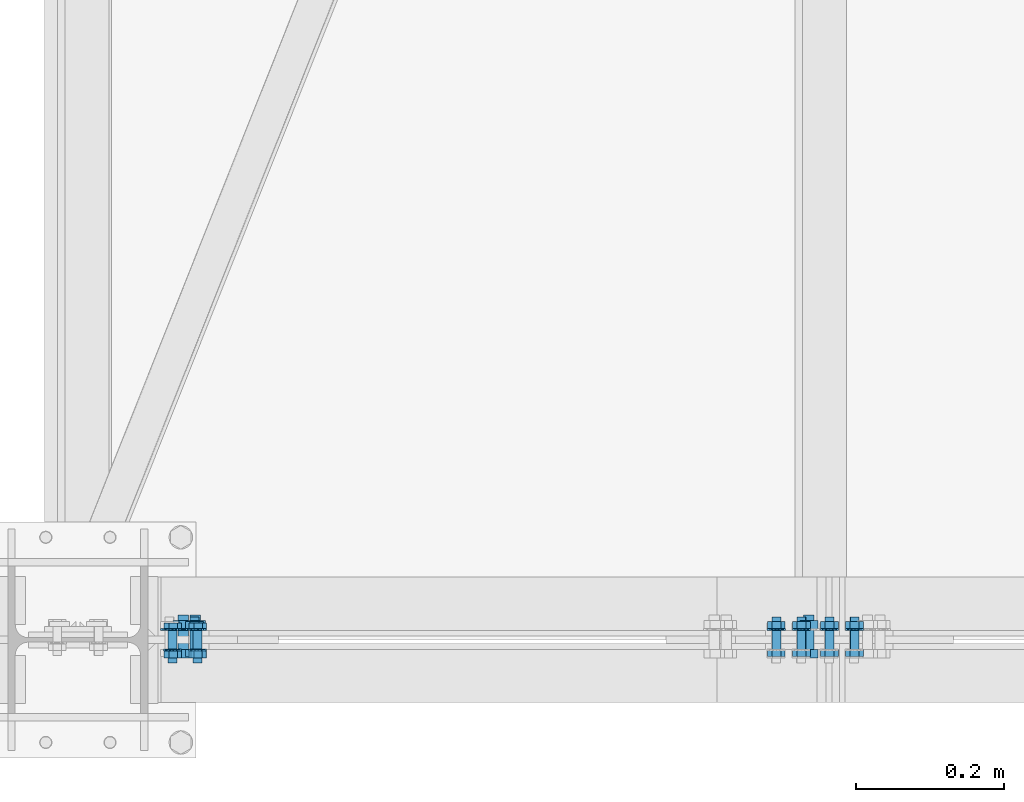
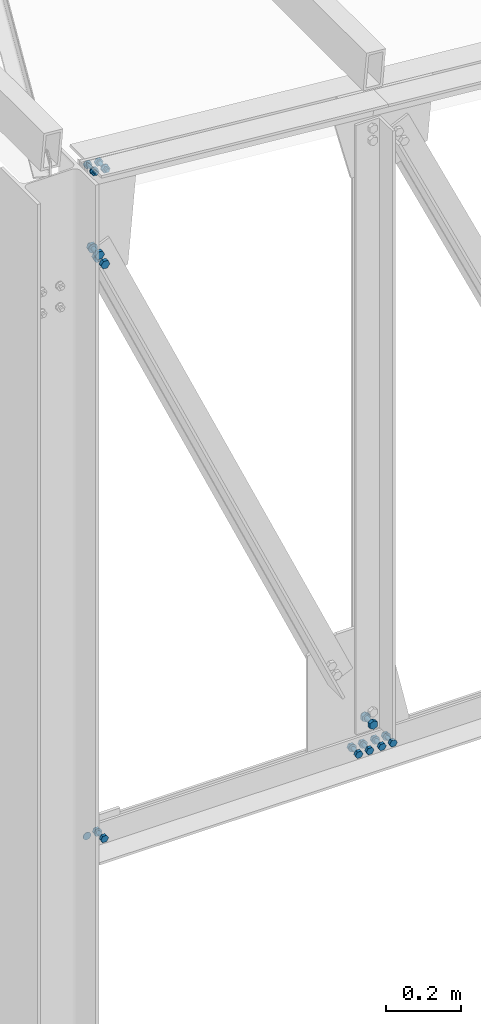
# One storey, part 58 of 251: 40 mechanical fasteners.
"""IFC4 building model written with IfcOpenShell, lengths in metres."""

from ifc_helpers import new_model, si_unit, frame, origin_with_axes, place, context, project, spatial, polyline, outline, extrude, type_object, element, save


model = new_model("IFC4")

# Units and contexts
model_context = context("Model", 3, precision=1e-05, world=origin_with_axes())
ifc_project = project(units=[si_unit("LENGTHUNIT", "METRE"), si_unit("AREAUNIT", "SQUARE_METRE"), si_unit("VOLUMEUNIT", "CUBIC_METRE"), si_unit("MASSUNIT", "GRAM", prefix="KILO"), si_unit("TIMEUNIT", "SECOND"), si_unit("PLANEANGLEUNIT", "RADIAN"), si_unit("SOLIDANGLEUNIT", "STERADIAN"), si_unit("THERMODYNAMICTEMPERATUREUNIT", "DEGREE_CELSIUS")], contexts=[model_context])

# Site, building, storey
placement_1 = place(None, origin_with_axes())
site = spatial("IfcSite", under=ifc_project, at=placement_1, Name="Italia", CompositionType="ELEMENT")
building = spatial("IfcBuilding", under=site, at=placement_1, Name="Deposito", CompositionType="ELEMENT")
storey = spatial("IfcBuildingStorey", under=building, at=placement_1, Name="Storey 0", CompositionType="ELEMENT", Elevation=0.0)

# Mechanical fasteners
mechanical_fastener_type_1 = type_object("IfcMechanicalFastenerType", Name="Reticolare 2", PredefinedType="BOLT")
placement_2 = place(placement_1, origin_with_axes())
mechanical_fastener_1_placement = place(placement_2, origin_with_axes())
element("IfcMechanicalFastener", 1, at=mechanical_fastener_1_placement, inside=storey, type_object=mechanical_fastener_type_1, Name="Reticolare 2", NominalDiameter=0.024, context=model_context, shape_type="SweptSolid", body=[
    extrude(outline(polyline([(0.0, 0.0), (-0.000409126, -0.00310564), (-0.00160789, -0.00600004), (-0.00351477, -0.00848532), (-0.00600004, -0.0103922), (-0.00889444, -0.011591), (-0.0120001, -0.0120001), (-0.0151057, -0.011591), (-0.0180001, -0.0103922), (-0.0204854, -0.00848532), (-0.0223923, -0.00600004), (-0.023591, -0.00310564), (-0.0240002, 0.0), (-0.023591, 0.00310564), (-0.0223923, 0.00600004), (-0.0204854, 0.00848532), (-0.0180001, 0.0103922), (-0.0151057, 0.011591), (-0.0120001, 0.0120001), (-0.00889444, 0.011591), (-0.00600004, 0.0103922), (-0.00351477, 0.00848532), (-0.00160789, 0.00600004), (-0.000409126, 0.00310564), (0.0, 0.0)])), frame((6.18605, 0.015, 5.007), z_axis=(0.0, -1.0, 0.0), x_axis=(1.0, 0.0, 0.0)), (0.0, 0.0, 1.0), 0.002),
])
mechanical_fastener_type_2 = type_object("IfcMechanicalFastenerType", Name="Reticolare 2", PredefinedType="BOLT")
mechanical_fastener_2_placement = place(placement_2, origin_with_axes())
element("IfcMechanicalFastener", 2, at=mechanical_fastener_2_placement, inside=storey, type_object=mechanical_fastener_type_2, Name="Reticolare 2", NominalDiameter=0.0119999, context=model_context, shape_type="SweptSolid", body=[
    extrude(outline(polyline([(0.0, 0.0), (-0.0120001, 0.0), (-0.0180001, 0.0103922), (-0.0120001, 0.0207844), (0.0, 0.0207844), (0.00600004, 0.0103922), (0.0, 0.0)])), frame((6.21405, -0.013, 4.99661), z_axis=(0.0, -1.0, 0.0), x_axis=(1.0, 0.0, 0.0)), (0.0, 0.0, 1.0), 0.0096),
])
mechanical_fastener_type_3 = type_object("IfcMechanicalFastenerType", Name="Reticolare 2", PredefinedType="BOLT")
mechanical_fastener_3_placement = place(placement_2, origin_with_axes())
element("IfcMechanicalFastener", 3, at=mechanical_fastener_3_placement, inside=storey, type_object=mechanical_fastener_type_3, Name="Reticolare 2", NominalDiameter=0.012, context=model_context, shape_type="SweptSolid", body=[
    extrude(outline(polyline([(0.0, 0.0), (-0.000204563, -0.00155306), (-0.000803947, -0.00299978), (-0.00175762, -0.00424242), (-0.00300026, -0.00519609), (-0.00444698, -0.00579548), (-0.00600004, -0.00600004), (-0.0075531, -0.00579548), (-0.00899982, -0.00519609), (-0.0102425, -0.00424242), (-0.0111961, -0.00299978), (-0.0117955, -0.00155306), (-0.0120001, 0.0), (-0.0117955, 0.00155306), (-0.0111961, 0.00299978), (-0.0102425, 0.00424242), (-0.00899982, 0.00519609), (-0.0075531, 0.00579548), (-0.00600004, 0.00600004), (-0.00444698, 0.00579548), (-0.00300026, 0.00519609), (-0.00175762, 0.00424242), (-0.000803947, 0.00299978), (-0.000204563, 0.00155306), (0.0, 0.0)])), frame((6.21405, 0.031, 5.007), z_axis=(0.0, -1.0, 0.0), x_axis=(1.0, 0.0, 0.0)), (0.0, 0.0, 1.0), 0.044),
])
mechanical_fastener_type_4 = type_object("IfcMechanicalFastenerType", Name="Reticolare 2", PredefinedType="BOLT")
mechanical_fastener_4_placement = place(placement_2, origin_with_axes())
element("IfcMechanicalFastener", 4, at=mechanical_fastener_4_placement, inside=storey, type_object=mechanical_fastener_type_4, Name="Reticolare 2", NominalDiameter=0.0119999, context=model_context, shape_type="SweptSolid", body=[
    extrude(outline(polyline([(0.0, 0.0), (-0.0120001, 0.0), (-0.0180001, 0.0103922), (-0.0120001, 0.0207844), (0.0, 0.0207844), (0.00600004, 0.0103922), (0.0, 0.0)])), frame((6.21405, 0.0246, 4.99661), z_axis=(0.0, -1.0, 0.0), x_axis=(1.0, 0.0, 0.0)), (0.0, 0.0, 1.0), 0.0096),
])
mechanical_fastener_type_5 = type_object("IfcMechanicalFastenerType", Name="Reticolare 2", PredefinedType="BOLT")
mechanical_fastener_5_placement = place(placement_2, origin_with_axes())
element("IfcMechanicalFastener", 5, at=mechanical_fastener_5_placement, inside=storey, type_object=mechanical_fastener_type_5, Name="Reticolare 2", NominalDiameter=0.024, context=model_context, shape_type="SweptSolid", body=[
    extrude(outline(polyline([(0.0, 0.0), (-0.000409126, -0.00310564), (-0.00160789, -0.00600004), (-0.00351477, -0.00848532), (-0.00600004, -0.0103922), (-0.00889444, -0.011591), (-0.0120001, -0.0120001), (-0.0151057, -0.011591), (-0.0180001, -0.0103922), (-0.0204854, -0.00848532), (-0.0223923, -0.00600004), (-0.023591, -0.00310564), (-0.0240002, 0.0), (-0.023591, 0.00310564), (-0.0223923, 0.00600004), (-0.0204854, 0.00848532), (-0.0180001, 0.0103922), (-0.0151057, 0.011591), (-0.0120001, 0.0120001), (-0.00889444, 0.011591), (-0.00600004, 0.0103922), (-0.00351477, 0.00848532), (-0.00160789, 0.00600004), (-0.000409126, 0.00310564), (0.0, 0.0)])), frame((6.22005, 0.015, 5.007), z_axis=(0.0, -1.0, 0.0), x_axis=(1.0, 0.0, 0.0)), (0.0, 0.0, 1.0), 0.002),
])
mechanical_fastener_type_6 = type_object("IfcMechanicalFastenerType", Name="Reticolare 2", PredefinedType="BOLT")
mechanical_fastener_6_placement = place(placement_2, origin_with_axes())
element("IfcMechanicalFastener", 6, at=mechanical_fastener_6_placement, inside=storey, type_object=mechanical_fastener_type_6, Name="Reticolare 2", NominalDiameter=0.0119999, context=model_context, shape_type="SweptSolid", body=[
    extrude(outline(polyline([(0.0, 0.0), (-0.0120001, 0.0), (-0.0180001, 0.0103922), (-0.0120001, 0.0207844), (0.0, 0.0207844), (0.00600004, 0.0103922), (0.0, 0.0)])), frame((7.03647, -0.013, 4.99661), z_axis=(0.0, -1.0, 0.0), x_axis=(1.0, 0.0, 0.0)), (0.0, 0.0, 1.0), 0.0096),
])
mechanical_fastener_type_7 = type_object("IfcMechanicalFastenerType", Name="Reticolare 2", PredefinedType="BOLT")
mechanical_fastener_7_placement = place(placement_2, origin_with_axes())
element("IfcMechanicalFastener", 7, at=mechanical_fastener_7_placement, inside=storey, type_object=mechanical_fastener_type_7, Name="Reticolare 2", NominalDiameter=0.012, context=model_context, shape_type="SweptSolid", body=[
    extrude(outline(polyline([(0.0, 0.0), (-0.000204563, -0.00155306), (-0.000803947, -0.00299978), (-0.00175762, -0.00424242), (-0.00300026, -0.00519609), (-0.00444698, -0.00579548), (-0.00600004, -0.00600004), (-0.0075531, -0.00579548), (-0.00899982, -0.00519609), (-0.0102425, -0.00424242), (-0.0111961, -0.00299978), (-0.0117955, -0.00155306), (-0.0120001, 0.0), (-0.0117955, 0.00155306), (-0.0111961, 0.00299978), (-0.0102425, 0.00424242), (-0.00899982, 0.00519609), (-0.0075531, 0.00579548), (-0.00600004, 0.00600004), (-0.00444698, 0.00579548), (-0.00300026, 0.00519609), (-0.00175762, 0.00424242), (-0.000803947, 0.00299978), (-0.000204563, 0.00155306), (0.0, 0.0)])), frame((7.03647, 0.031, 5.007), z_axis=(0.0, -1.0, 0.0), x_axis=(1.0, 0.0, 0.0)), (0.0, 0.0, 1.0), 0.044),
])
mechanical_fastener_type_8 = type_object("IfcMechanicalFastenerType", Name="Reticolare 2", PredefinedType="BOLT")
mechanical_fastener_8_placement = place(placement_2, origin_with_axes())
element("IfcMechanicalFastener", 8, at=mechanical_fastener_8_placement, inside=storey, type_object=mechanical_fastener_type_8, Name="Reticolare 2", NominalDiameter=0.0119999, context=model_context, shape_type="SweptSolid", body=[
    extrude(outline(polyline([(0.0, 0.0), (-0.0120001, 0.0), (-0.0180001, 0.0103922), (-0.0120001, 0.0207844), (0.0, 0.0207844), (0.00600004, 0.0103922), (0.0, 0.0)])), frame((7.03647, 0.0246, 4.99661), z_axis=(0.0, -1.0, 0.0), x_axis=(1.0, 0.0, 0.0)), (0.0, 0.0, 1.0), 0.0096),
])
mechanical_fastener_type_9 = type_object("IfcMechanicalFastenerType", Name="Reticolare 2", PredefinedType="BOLT")
mechanical_fastener_9_placement = place(placement_2, origin_with_axes())
element("IfcMechanicalFastener", 9, at=mechanical_fastener_9_placement, inside=storey, type_object=mechanical_fastener_type_9, Name="Reticolare 2", NominalDiameter=0.024, context=model_context, shape_type="SweptSolid", body=[
    extrude(outline(polyline([(0.0, 0.0), (-0.000409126, -0.00310564), (-0.00160789, -0.00600004), (-0.00351477, -0.00848532), (-0.00600004, -0.0103922), (-0.00889444, -0.011591), (-0.0120001, -0.0120001), (-0.0151057, -0.011591), (-0.0180001, -0.0103922), (-0.0204854, -0.00848532), (-0.0223923, -0.00600004), (-0.023591, -0.00310564), (-0.0240002, 0.0), (-0.023591, 0.00310564), (-0.0223923, 0.00600004), (-0.0204854, 0.00848532), (-0.0180001, 0.0103922), (-0.0151057, 0.011591), (-0.0120001, 0.0120001), (-0.00889444, 0.011591), (-0.00600004, 0.0103922), (-0.00351477, 0.00848532), (-0.00160789, 0.00600004), (-0.000409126, 0.00310564), (0.0, 0.0)])), frame((7.04247, 0.015, 5.007), z_axis=(0.0, -1.0, 0.0), x_axis=(1.0, 0.0, 0.0)), (0.0, 0.0, 1.0), 0.002),
])
mechanical_fastener_type_10 = type_object("IfcMechanicalFastenerType", Name="Reticolare 2", PredefinedType="BOLT")
mechanical_fastener_10_placement = place(placement_2, origin_with_axes())
element("IfcMechanicalFastener", 10, at=mechanical_fastener_10_placement, inside=storey, type_object=mechanical_fastener_type_10, Name="Reticolare 2", NominalDiameter=0.0119999, context=model_context, shape_type="SweptSolid", body=[
    extrude(outline(polyline([(0.0, 0.0), (-0.0120001, 0.0), (-0.0180001, 0.0103922), (-0.0120001, 0.0207844), (0.0, 0.0207844), (0.00600004, 0.0103922), (0.0, 0.0)])), frame((7.00247, -0.013, 4.99661), z_axis=(0.0, -1.0, 0.0), x_axis=(1.0, 0.0, 0.0)), (0.0, 0.0, 1.0), 0.0096),
])
mechanical_fastener_type_11 = type_object("IfcMechanicalFastenerType", Name="Reticolare 2", PredefinedType="BOLT")
mechanical_fastener_11_placement = place(placement_2, origin_with_axes())
element("IfcMechanicalFastener", 11, at=mechanical_fastener_11_placement, inside=storey, type_object=mechanical_fastener_type_11, Name="Reticolare 2", NominalDiameter=0.012, context=model_context, shape_type="SweptSolid", body=[
    extrude(outline(polyline([(0.0, 0.0), (-0.000204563, -0.00155306), (-0.000803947, -0.00299978), (-0.00175762, -0.00424242), (-0.00300026, -0.00519609), (-0.00444698, -0.00579548), (-0.00600004, -0.00600004), (-0.0075531, -0.00579548), (-0.00899982, -0.00519609), (-0.0102425, -0.00424242), (-0.0111961, -0.00299978), (-0.0117955, -0.00155306), (-0.0120001, 0.0), (-0.0117955, 0.00155306), (-0.0111961, 0.00299978), (-0.0102425, 0.00424242), (-0.00899982, 0.00519609), (-0.0075531, 0.00579548), (-0.00600004, 0.00600004), (-0.00444698, 0.00579548), (-0.00300026, 0.00519609), (-0.00175762, 0.00424242), (-0.000803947, 0.00299978), (-0.000204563, 0.00155306), (0.0, 0.0)])), frame((7.00247, 0.031, 5.007), z_axis=(0.0, -1.0, 0.0), x_axis=(1.0, 0.0, 0.0)), (0.0, 0.0, 1.0), 0.044),
])
mechanical_fastener_type_12 = type_object("IfcMechanicalFastenerType", Name="Reticolare 2", PredefinedType="BOLT")
mechanical_fastener_12_placement = place(placement_2, origin_with_axes())
element("IfcMechanicalFastener", 12, at=mechanical_fastener_12_placement, inside=storey, type_object=mechanical_fastener_type_12, Name="Reticolare 2", NominalDiameter=0.0119999, context=model_context, shape_type="SweptSolid", body=[
    extrude(outline(polyline([(0.0, 0.0), (-0.0120001, 0.0), (-0.0180001, 0.0103922), (-0.0120001, 0.0207844), (0.0, 0.0207844), (0.00600004, 0.0103922), (0.0, 0.0)])), frame((7.00247, 0.0246, 4.99661), z_axis=(0.0, -1.0, 0.0), x_axis=(1.0, 0.0, 0.0)), (0.0, 0.0, 1.0), 0.0096),
])
mechanical_fastener_type_13 = type_object("IfcMechanicalFastenerType", Name="Reticolare 2", PredefinedType="BOLT")
mechanical_fastener_13_placement = place(placement_2, origin_with_axes())
element("IfcMechanicalFastener", 13, at=mechanical_fastener_13_placement, inside=storey, type_object=mechanical_fastener_type_13, Name="Reticolare 2", NominalDiameter=0.024, context=model_context, shape_type="SweptSolid", body=[
    extrude(outline(polyline([(0.0, 0.0), (-0.000409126, -0.00310564), (-0.00160789, -0.00600004), (-0.00351477, -0.00848532), (-0.00600004, -0.0103922), (-0.00889444, -0.011591), (-0.0120001, -0.0120001), (-0.0151057, -0.011591), (-0.0180001, -0.0103922), (-0.0204854, -0.00848532), (-0.0223923, -0.00600004), (-0.023591, -0.00310564), (-0.0240002, 0.0), (-0.023591, 0.00310564), (-0.0223923, 0.00600004), (-0.0204854, 0.00848532), (-0.0180001, 0.0103922), (-0.0151057, 0.011591), (-0.0120001, 0.0120001), (-0.00889444, 0.011591), (-0.00600004, 0.0103922), (-0.00351477, 0.00848532), (-0.00160789, 0.00600004), (-0.000409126, 0.00310564), (0.0, 0.0)])), frame((7.00847, 0.015, 5.007), z_axis=(0.0, -1.0, 0.0), x_axis=(1.0, 0.0, 0.0)), (0.0, 0.0, 1.0), 0.002),
])
mechanical_fastener_type_14 = type_object("IfcMechanicalFastenerType", Name="Reticolare 2", PredefinedType="BOLT")
mechanical_fastener_14_placement = place(placement_2, origin_with_axes())
element("IfcMechanicalFastener", 14, at=mechanical_fastener_14_placement, inside=storey, type_object=mechanical_fastener_type_14, Name="Reticolare 2", NominalDiameter=0.0119999, context=model_context, shape_type="SweptSolid", body=[
    extrude(outline(polyline([(0.0, 0.0), (-0.0120001, 0.0), (-0.0180001, 0.0103922), (-0.0120001, 0.0207844), (0.0, 0.0207844), (0.00600004, 0.0103922), (0.0, 0.0)])), frame((7.07447, -0.013, 4.99661), z_axis=(0.0, -1.0, 0.0), x_axis=(1.0, 0.0, 0.0)), (0.0, 0.0, 1.0), 0.0096),
])
mechanical_fastener_type_15 = type_object("IfcMechanicalFastenerType", Name="Reticolare 2", PredefinedType="BOLT")
mechanical_fastener_15_placement = place(placement_2, origin_with_axes())
element("IfcMechanicalFastener", 15, at=mechanical_fastener_15_placement, inside=storey, type_object=mechanical_fastener_type_15, Name="Reticolare 2", NominalDiameter=0.012, context=model_context, shape_type="SweptSolid", body=[
    extrude(outline(polyline([(0.0, 0.0), (-0.000204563, -0.00155306), (-0.000803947, -0.00299978), (-0.00175762, -0.00424242), (-0.00300026, -0.00519609), (-0.00444698, -0.00579548), (-0.00600004, -0.00600004), (-0.0075531, -0.00579548), (-0.00899982, -0.00519609), (-0.0102425, -0.00424242), (-0.0111961, -0.00299978), (-0.0117955, -0.00155306), (-0.0120001, 0.0), (-0.0117955, 0.00155306), (-0.0111961, 0.00299978), (-0.0102425, 0.00424242), (-0.00899982, 0.00519609), (-0.0075531, 0.00579548), (-0.00600004, 0.00600004), (-0.00444698, 0.00579548), (-0.00300026, 0.00519609), (-0.00175762, 0.00424242), (-0.000803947, 0.00299978), (-0.000204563, 0.00155306), (0.0, 0.0)])), frame((7.07447, 0.031, 5.007), z_axis=(0.0, -1.0, 0.0), x_axis=(1.0, 0.0, 0.0)), (0.0, 0.0, 1.0), 0.044),
])
mechanical_fastener_type_16 = type_object("IfcMechanicalFastenerType", Name="Reticolare 2", PredefinedType="BOLT")
mechanical_fastener_16_placement = place(placement_2, origin_with_axes())
element("IfcMechanicalFastener", 16, at=mechanical_fastener_16_placement, inside=storey, type_object=mechanical_fastener_type_16, Name="Reticolare 2", NominalDiameter=0.0119999, context=model_context, shape_type="SweptSolid", body=[
    extrude(outline(polyline([(0.0, 0.0), (-0.0120001, 0.0), (-0.0180001, 0.0103922), (-0.0120001, 0.0207844), (0.0, 0.0207844), (0.00600004, 0.0103922), (0.0, 0.0)])), frame((7.07447, 0.0246, 4.99661), z_axis=(0.0, -1.0, 0.0), x_axis=(1.0, 0.0, 0.0)), (0.0, 0.0, 1.0), 0.0096),
])
mechanical_fastener_type_17 = type_object("IfcMechanicalFastenerType", Name="Reticolare 2", PredefinedType="BOLT")
mechanical_fastener_17_placement = place(placement_2, origin_with_axes())
element("IfcMechanicalFastener", 17, at=mechanical_fastener_17_placement, inside=storey, type_object=mechanical_fastener_type_17, Name="Reticolare 2", NominalDiameter=0.024, context=model_context, shape_type="SweptSolid", body=[
    extrude(outline(polyline([(0.0, 0.0), (-0.000409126, -0.00310564), (-0.00160789, -0.00600004), (-0.00351477, -0.00848532), (-0.00600004, -0.0103922), (-0.00889444, -0.011591), (-0.0120001, -0.0120001), (-0.0151057, -0.011591), (-0.0180001, -0.0103922), (-0.0204854, -0.00848532), (-0.0223923, -0.00600004), (-0.023591, -0.00310564), (-0.0240002, 0.0), (-0.023591, 0.00310564), (-0.0223923, 0.00600004), (-0.0204854, 0.00848532), (-0.0180001, 0.0103922), (-0.0151057, 0.011591), (-0.0120001, 0.0120001), (-0.00889444, 0.011591), (-0.00600004, 0.0103922), (-0.00351477, 0.00848532), (-0.00160789, 0.00600004), (-0.000409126, 0.00310564), (0.0, 0.0)])), frame((7.08047, 0.015, 5.007), z_axis=(0.0, -1.0, 0.0), x_axis=(1.0, 0.0, 0.0)), (0.0, 0.0, 1.0), 0.002),
])
mechanical_fastener_type_18 = type_object("IfcMechanicalFastenerType", Name="Reticolare 2", PredefinedType="BOLT")
mechanical_fastener_18_placement = place(placement_2, origin_with_axes())
element("IfcMechanicalFastener", 18, at=mechanical_fastener_18_placement, inside=storey, type_object=mechanical_fastener_type_18, Name="Reticolare 2", NominalDiameter=0.0119999, context=model_context, shape_type="SweptSolid", body=[
    extrude(outline(polyline([(0.0, 0.0), (-0.0120001, 0.0), (-0.0180001, 0.0103922), (-0.0120001, 0.0207844), (0.0, 0.0207844), (0.00600004, 0.0103922), (0.0, 0.0)])), frame((7.10847, -0.013, 4.99661), z_axis=(0.0, -1.0, 0.0), x_axis=(1.0, 0.0, 0.0)), (0.0, 0.0, 1.0), 0.0096),
])
mechanical_fastener_type_19 = type_object("IfcMechanicalFastenerType", Name="Reticolare 2", PredefinedType="BOLT")
mechanical_fastener_19_placement = place(placement_2, origin_with_axes())
element("IfcMechanicalFastener", 19, at=mechanical_fastener_19_placement, inside=storey, type_object=mechanical_fastener_type_19, Name="Reticolare 2", NominalDiameter=0.012, context=model_context, shape_type="SweptSolid", body=[
    extrude(outline(polyline([(0.0, 0.0), (-0.000204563, -0.00155306), (-0.000803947, -0.00299978), (-0.00175762, -0.00424242), (-0.00300026, -0.00519609), (-0.00444698, -0.00579548), (-0.00600004, -0.00600004), (-0.0075531, -0.00579548), (-0.00899982, -0.00519609), (-0.0102425, -0.00424242), (-0.0111961, -0.00299978), (-0.0117955, -0.00155306), (-0.0120001, 0.0), (-0.0117955, 0.00155306), (-0.0111961, 0.00299978), (-0.0102425, 0.00424242), (-0.00899982, 0.00519609), (-0.0075531, 0.00579548), (-0.00600004, 0.00600004), (-0.00444698, 0.00579548), (-0.00300026, 0.00519609), (-0.00175762, 0.00424242), (-0.000803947, 0.00299978), (-0.000204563, 0.00155306), (0.0, 0.0)])), frame((7.10847, 0.031, 5.007), z_axis=(0.0, -1.0, 0.0), x_axis=(1.0, 0.0, 0.0)), (0.0, 0.0, 1.0), 0.044),
])
mechanical_fastener_type_20 = type_object("IfcMechanicalFastenerType", Name="Reticolare 2", PredefinedType="BOLT")
mechanical_fastener_20_placement = place(placement_2, origin_with_axes())
element("IfcMechanicalFastener", 20, at=mechanical_fastener_20_placement, inside=storey, type_object=mechanical_fastener_type_20, Name="Reticolare 2", NominalDiameter=0.0119999, context=model_context, shape_type="SweptSolid", body=[
    extrude(outline(polyline([(0.0, 0.0), (-0.0120001, 0.0), (-0.0180001, 0.0103922), (-0.0120001, 0.0207844), (0.0, 0.0207844), (0.00600004, 0.0103922), (0.0, 0.0)])), frame((7.10847, 0.0246, 4.99661), z_axis=(0.0, -1.0, 0.0), x_axis=(1.0, 0.0, 0.0)), (0.0, 0.0, 1.0), 0.0096),
])
mechanical_fastener_type_21 = type_object("IfcMechanicalFastenerType", Name="Reticolare 2", PredefinedType="BOLT")
mechanical_fastener_21_placement = place(placement_2, origin_with_axes())
element("IfcMechanicalFastener", 21, at=mechanical_fastener_21_placement, inside=storey, type_object=mechanical_fastener_type_21, Name="Reticolare 2", NominalDiameter=0.024, context=model_context, shape_type="SweptSolid", body=[
    extrude(outline(polyline([(0.0, 0.0), (-0.000409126, -0.00310564), (-0.00160789, -0.00600004), (-0.00351477, -0.00848532), (-0.00600004, -0.0103922), (-0.00889444, -0.011591), (-0.0120001, -0.0120001), (-0.0151057, -0.011591), (-0.0180001, -0.0103922), (-0.0204854, -0.00848532), (-0.0223923, -0.00600004), (-0.023591, -0.00310564), (-0.0240002, 0.0), (-0.023591, 0.00310564), (-0.0223923, 0.00600004), (-0.0204854, 0.00848532), (-0.0180001, 0.0103922), (-0.0151057, 0.011591), (-0.0120001, 0.0120001), (-0.00889444, 0.011591), (-0.00600004, 0.0103922), (-0.00351477, 0.00848532), (-0.00160789, 0.00600004), (-0.000409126, 0.00310564), (0.0, 0.0)])), frame((7.11447, 0.015, 5.007), z_axis=(0.0, -1.0, 0.0), x_axis=(1.0, 0.0, 0.0)), (0.0, 0.0, 1.0), 0.002),
])
mechanical_fastener_type_22 = type_object("IfcMechanicalFastenerType", Name="Reticolare 2", PredefinedType="BOLT")
mechanical_fastener_22_placement = place(placement_2, origin_with_axes())
element("IfcMechanicalFastener", 22, at=mechanical_fastener_22_placement, inside=storey, type_object=mechanical_fastener_type_22, Name="Reticolare 2", NominalDiameter=0.0139997, context=model_context, shape_type="SweptSolid", body=[
    extrude(outline(polyline([(0.0, 0.0), (0.0, -0.0139999), (-0.0121241, -0.0209999), (-0.0242486, -0.0139999), (-0.0242486, 0.0), (-0.0121241, 0.00699997), (0.0, 0.0)])), frame((7.05259, -0.013, 5.09653), z_axis=(0.0, -1.0, 0.0), x_axis=(1.0, 0.0, 0.0)), (0.0, 0.0, 1.0), 0.0112),
])
mechanical_fastener_type_23 = type_object("IfcMechanicalFastenerType", Name="Reticolare 2", PredefinedType="BOLT")
mechanical_fastener_23_placement = place(placement_2, origin_with_axes())
element("IfcMechanicalFastener", 23, at=mechanical_fastener_23_placement, inside=storey, type_object=mechanical_fastener_type_23, Name="Reticolare 2", NominalDiameter=0.014, context=model_context, shape_type="SweptSolid", body=[
    extrude(outline(polyline([(0.0, 0.0), (-0.000238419, -0.0018115), (-0.000937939, -0.00349998), (-0.0020504, -0.00494957), (-0.00349998, -0.00606203), (-0.00518847, -0.00676155), (-0.00699997, -0.00699997), (-0.00881147, -0.00676155), (-0.0105, -0.00606203), (-0.0119495, -0.00494957), (-0.013062, -0.00349998), (-0.0137615, -0.0018115), (-0.0139999, 0.0), (-0.0137615, 0.0018115), (-0.013062, 0.00349998), (-0.0119495, 0.00494957), (-0.0105, 0.00606203), (-0.00881147, 0.00676155), (-0.00699997, 0.00699997), (-0.00518847, 0.00676155), (-0.00349998, 0.00606203), (-0.0020504, 0.00494957), (-0.000937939, 0.00349998), (-0.000238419, 0.0018115), (0.0, 0.0)])), frame((7.04747, 0.034, 5.08953), z_axis=(0.0, -1.0, 0.0), x_axis=(1.0, 0.0, 0.0)), (0.0, 0.0, 1.0), 0.047),
])
mechanical_fastener_type_24 = type_object("IfcMechanicalFastenerType", Name="Reticolare 2", PredefinedType="BOLT")
mechanical_fastener_24_placement = place(placement_2, origin_with_axes())
element("IfcMechanicalFastener", 24, at=mechanical_fastener_24_placement, inside=storey, type_object=mechanical_fastener_type_24, Name="Reticolare 2", NominalDiameter=0.0139997, context=model_context, shape_type="SweptSolid", body=[
    extrude(outline(polyline([(0.0, 0.0), (0.0, -0.0139999), (-0.0121241, -0.0209999), (-0.0242486, -0.0139999), (-0.0242486, 0.0), (-0.0121241, 0.00699997), (0.0, 0.0)])), frame((7.05259, 0.0262, 5.09653), z_axis=(0.0, -1.0, 0.0), x_axis=(1.0, 0.0, 0.0)), (0.0, 0.0, 1.0), 0.0112),
])
mechanical_fastener_type_25 = type_object("IfcMechanicalFastenerType", Name="Reticolare 2", PredefinedType="BOLT")
mechanical_fastener_25_placement = place(placement_2, origin_with_axes())
element("IfcMechanicalFastener", 25, at=mechanical_fastener_25_placement, inside=storey, type_object=mechanical_fastener_type_25, Name="Reticolare 2", NominalDiameter=0.012, context=model_context, shape_type="SweptSolid", body=[
    extrude(outline(polyline([(0.0, 0.0), (0.0119548, 0.00104237), (0.0188351, -0.00878954), (0.0137606, -0.0196638), (0.00180578, -0.0207062), (-0.0050745, -0.0108743), (0.0, 0.0)])), frame((6.18524, 0.013, 7.21179), z_axis=(0.0, 1.0, 0.0), x_axis=(-1.0, 0.0, 0.0)), (0.0, 0.0, 1.0), 0.0096),
])
mechanical_fastener_type_26 = type_object("IfcMechanicalFastenerType", Name="Reticolare 2", PredefinedType="BOLT")
mechanical_fastener_26_placement = place(placement_2, origin_with_axes())
element("IfcMechanicalFastener", 26, at=mechanical_fastener_26_placement, inside=storey, type_object=mechanical_fastener_type_26, Name="Reticolare 2", NominalDiameter=0.012, context=model_context, shape_type="SweptSolid", body=[
    extrude(outline(polyline([(0.0, 0.0), (-0.000204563, -0.00155306), (-0.000803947, -0.00299978), (-0.00175762, -0.00424242), (-0.00300026, -0.00519609), (-0.00444698, -0.00579548), (-0.00600004, -0.00600004), (-0.0075531, -0.00579548), (-0.00899982, -0.00519609), (-0.0102425, -0.00424242), (-0.0111961, -0.00299978), (-0.0117955, -0.00155306), (-0.0120001, 0.0), (-0.0117955, 0.00155306), (-0.0111961, 0.00299978), (-0.0102425, 0.00424242), (-0.00899982, 0.00519609), (-0.0075531, 0.00579548), (-0.00600004, 0.00600004), (-0.00444698, 0.00579548), (-0.00300026, 0.00519609), (-0.00175762, 0.00424242), (-0.000803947, 0.00299978), (-0.000204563, 0.00155306), (0.0, 0.0)])), frame((6.17236, -0.031, 7.20196), z_axis=(0.0, 1.0, 0.0), x_axis=(-1.0, 0.0, 0.0)), (0.0, 0.0, 1.0), 0.044),
])
mechanical_fastener_type_27 = type_object("IfcMechanicalFastenerType", Name="Reticolare 2", PredefinedType="BOLT")
mechanical_fastener_27_placement = place(placement_2, origin_with_axes())
element("IfcMechanicalFastener", 27, at=mechanical_fastener_27_placement, inside=storey, type_object=mechanical_fastener_type_27, Name="Reticolare 2", NominalDiameter=0.012, context=model_context, shape_type="SweptSolid", body=[
    extrude(outline(polyline([(0.0, 0.0), (0.0119548, 0.00104237), (0.0188351, -0.00878954), (0.0137606, -0.0196638), (0.00180578, -0.0207062), (-0.0050745, -0.0108743), (0.0, 0.0)])), frame((6.18524, -0.0246, 7.21179), z_axis=(0.0, 1.0, 0.0), x_axis=(-1.0, 0.0, 0.0)), (0.0, 0.0, 1.0), 0.0096),
])
mechanical_fastener_type_28 = type_object("IfcMechanicalFastenerType", Name="Reticolare 2", PredefinedType="BOLT")
mechanical_fastener_28_placement = place(placement_2, origin_with_axes())
element("IfcMechanicalFastener", 28, at=mechanical_fastener_28_placement, inside=storey, type_object=mechanical_fastener_type_28, Name="Reticolare 2", NominalDiameter=0.024, context=model_context, shape_type="SweptSolid", body=[
    extrude(outline(polyline([(0.0, 0.0), (-0.000409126, -0.00310564), (-0.00160789, -0.00600004), (-0.00351477, -0.00848532), (-0.00600004, -0.0103922), (-0.00889444, -0.011591), (-0.0120001, -0.0120001), (-0.0151057, -0.011591), (-0.0180001, -0.0103922), (-0.0204854, -0.00848532), (-0.0223923, -0.00600004), (-0.023591, -0.00310564), (-0.0240002, 0.0), (-0.023591, 0.00310564), (-0.0223923, 0.00600004), (-0.0204854, 0.00848532), (-0.0180001, 0.0103922), (-0.0151057, 0.011591), (-0.0120001, 0.0120001), (-0.00889444, 0.011591), (-0.00600004, 0.0103922), (-0.00351477, 0.00848532), (-0.00160789, 0.00600004), (-0.000409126, 0.00310564), (0.0, 0.0)])), frame((6.16636, -0.015, 7.20196), z_axis=(0.0, 1.0, 0.0), x_axis=(-1.0, 0.0, 0.0)), (0.0, 0.0, 1.0), 0.002),
])
mechanical_fastener_type_29 = type_object("IfcMechanicalFastenerType", Name="Reticolare 2", PredefinedType="BOLT")
mechanical_fastener_29_placement = place(placement_2, origin_with_axes())
element("IfcMechanicalFastener", 29, at=mechanical_fastener_29_placement, inside=storey, type_object=mechanical_fastener_type_29, Name="Reticolare 2", NominalDiameter=0.0119995, context=model_context, shape_type="SweptSolid", body=[
    extrude(outline(polyline([(0.0, 0.0), (0.0119543, 0.00104284), (0.0188346, -0.00878906), (0.0137601, -0.0196633), (0.00180531, -0.0207057), (-0.0050745, -0.0108743), (0.0, 0.0)])), frame((6.21912, 0.013, 7.20884), z_axis=(0.0, 1.0, 0.0), x_axis=(-1.0, 0.0, 0.0)), (0.0, 0.0, 1.0), 0.0096),
])
mechanical_fastener_type_30 = type_object("IfcMechanicalFastenerType", Name="Reticolare 2", PredefinedType="BOLT")
mechanical_fastener_30_placement = place(placement_2, origin_with_axes())
element("IfcMechanicalFastener", 30, at=mechanical_fastener_30_placement, inside=storey, type_object=mechanical_fastener_type_30, Name="Reticolare 2", NominalDiameter=0.012, context=model_context, shape_type="SweptSolid", body=[
    extrude(outline(polyline([(0.0, 0.0), (-0.000204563, -0.00155306), (-0.000803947, -0.00299978), (-0.00175762, -0.00424242), (-0.00300026, -0.00519609), (-0.00444698, -0.00579548), (-0.00600004, -0.00600004), (-0.0075531, -0.00579548), (-0.00899982, -0.00519609), (-0.0102425, -0.00424242), (-0.0111961, -0.00299978), (-0.0117955, -0.00155306), (-0.0120001, 0.0), (-0.0117955, 0.00155306), (-0.0111961, 0.00299978), (-0.0102425, 0.00424242), (-0.00899982, 0.00519609), (-0.0075531, 0.00579548), (-0.00600004, 0.00600004), (-0.00444698, 0.00579548), (-0.00300026, 0.00519609), (-0.00175762, 0.00424242), (-0.000803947, 0.00299978), (-0.000204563, 0.00155306), (0.0, 0.0)])), frame((6.20624, -0.031, 7.19901), z_axis=(0.0, 1.0, 0.0), x_axis=(-1.0, 0.0, 0.0)), (0.0, 0.0, 1.0), 0.044),
])
mechanical_fastener_type_31 = type_object("IfcMechanicalFastenerType", Name="Reticolare 2", PredefinedType="BOLT")
mechanical_fastener_31_placement = place(placement_2, origin_with_axes())
element("IfcMechanicalFastener", 31, at=mechanical_fastener_31_placement, inside=storey, type_object=mechanical_fastener_type_31, Name="Reticolare 2", NominalDiameter=0.0119995, context=model_context, shape_type="SweptSolid", body=[
    extrude(outline(polyline([(0.0, 0.0), (0.0119543, 0.00104284), (0.0188346, -0.00878906), (0.0137601, -0.0196633), (0.00180531, -0.0207057), (-0.0050745, -0.0108743), (0.0, 0.0)])), frame((6.21912, -0.0246, 7.20884), z_axis=(0.0, 1.0, 0.0), x_axis=(-1.0, 0.0, 0.0)), (0.0, 0.0, 1.0), 0.0096),
])
mechanical_fastener_type_32 = type_object("IfcMechanicalFastenerType", Name="Reticolare 2", PredefinedType="BOLT")
mechanical_fastener_32_placement = place(placement_2, origin_with_axes())
element("IfcMechanicalFastener", 32, at=mechanical_fastener_32_placement, inside=storey, type_object=mechanical_fastener_type_32, Name="Reticolare 2", NominalDiameter=0.024, context=model_context, shape_type="SweptSolid", body=[
    extrude(outline(polyline([(0.0, 0.0), (-0.000409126, -0.00310564), (-0.00160789, -0.00600004), (-0.00351477, -0.00848532), (-0.00600004, -0.0103922), (-0.00889444, -0.011591), (-0.0120001, -0.0120001), (-0.0151057, -0.011591), (-0.0180001, -0.0103922), (-0.0204854, -0.00848532), (-0.0223923, -0.00600004), (-0.023591, -0.00310564), (-0.0240002, 0.0), (-0.023591, 0.00310564), (-0.0223923, 0.00600004), (-0.0204854, 0.00848532), (-0.0180001, 0.0103922), (-0.0151057, 0.011591), (-0.0120001, 0.0120001), (-0.00889444, 0.011591), (-0.00600004, 0.0103922), (-0.00351477, 0.00848532), (-0.00160789, 0.00600004), (-0.000409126, 0.00310564), (0.0, 0.0)])), frame((6.20024, -0.015, 7.19901), z_axis=(0.0, 1.0, 0.0), x_axis=(-1.0, 0.0, 0.0)), (0.0, 0.0, 1.0), 0.002),
])
mechanical_fastener_type_33 = type_object("IfcMechanicalFastenerType", Name="Reticolare 2", PredefinedType="BOLT")
mechanical_fastener_33_placement = place(placement_2, origin_with_axes())
element("IfcMechanicalFastener", 33, at=mechanical_fastener_33_placement, inside=storey, type_object=mechanical_fastener_type_33, Name="Reticolare 2", NominalDiameter=0.0139996, context=model_context, shape_type="SweptSolid", body=[
    extrude(outline(polyline([(0.0, 0.0), (-0.00574732, 0.0127664), (0.00243521, 0.0241261), (0.0163646, 0.0227203), (0.0221114, 0.00995398), (0.0139289, -0.00140572), (0.0, 0.0)])), frame((6.18464, -0.013, 6.91349), z_axis=(0.0, -1.0, 0.0), x_axis=(1.0, 0.0, 0.0)), (0.0, 0.0, 1.0), 0.0112),
])
mechanical_fastener_type_34 = type_object("IfcMechanicalFastenerType", Name="Reticolare 2", PredefinedType="BOLT")
mechanical_fastener_34_placement = place(placement_2, origin_with_axes())
element("IfcMechanicalFastener", 34, at=mechanical_fastener_34_placement, inside=storey, type_object=mechanical_fastener_type_34, Name="Reticolare 2", NominalDiameter=0.014, context=model_context, shape_type="SweptSolid", body=[
    extrude(outline(polyline([(0.0, 0.0), (-0.000238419, -0.0018115), (-0.000937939, -0.00349998), (-0.0020504, -0.00494957), (-0.00349998, -0.00606203), (-0.00518847, -0.00676155), (-0.00699997, -0.00699997), (-0.00881147, -0.00676155), (-0.0105, -0.00606203), (-0.0119495, -0.00494957), (-0.013062, -0.00349998), (-0.0137615, -0.0018115), (-0.0139999, 0.0), (-0.0137615, 0.0018115), (-0.013062, 0.00349998), (-0.0119495, 0.00494957), (-0.0105, 0.00606203), (-0.00881147, 0.00676155), (-0.00699997, 0.00699997), (-0.00518847, 0.00676155), (-0.00349998, 0.00606203), (-0.0020504, 0.00494957), (-0.000937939, 0.00349998), (-0.000238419, 0.0018115), (0.0, 0.0)])), frame((6.19982, 0.034, 6.92485), z_axis=(0.0, -1.0, 0.0), x_axis=(1.0, 0.0, 0.0)), (0.0, 0.0, 1.0), 0.047),
])
mechanical_fastener_type_35 = type_object("IfcMechanicalFastenerType", Name="Reticolare 2", PredefinedType="BOLT")
mechanical_fastener_35_placement = place(placement_2, origin_with_axes())
element("IfcMechanicalFastener", 35, at=mechanical_fastener_35_placement, inside=storey, type_object=mechanical_fastener_type_35, Name="Reticolare 2", NominalDiameter=0.0139996, context=model_context, shape_type="SweptSolid", body=[
    extrude(outline(polyline([(0.0, 0.0), (-0.00574732, 0.0127664), (0.00243521, 0.0241261), (0.0163646, 0.0227203), (0.0221114, 0.00995398), (0.0139289, -0.00140572), (0.0, 0.0)])), frame((6.18464, 0.0262, 6.91349), z_axis=(0.0, -1.0, 0.0), x_axis=(1.0, 0.0, 0.0)), (0.0, 0.0, 1.0), 0.0112),
])
mechanical_fastener_type_36 = type_object("IfcMechanicalFastenerType", Name="Reticolare 2", PredefinedType="BOLT")
mechanical_fastener_36_placement = place(placement_2, origin_with_axes())
element("IfcMechanicalFastener", 36, at=mechanical_fastener_36_placement, inside=storey, type_object=mechanical_fastener_type_36, Name="Reticolare 2", NominalDiameter=0.028, context=model_context, shape_type="SweptSolid", body=[
    extrude(outline(polyline([(0.0, 0.0), (-0.000476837, -0.00362349), (-0.0018754, -0.00699997), (-0.00410032, -0.00989962), (-0.00699997, -0.0121245), (-0.0103765, -0.0135231), (-0.0139999, -0.0139999), (-0.0176234, -0.0135231), (-0.0209999, -0.0121245), (-0.0238996, -0.00989962), (-0.0261245, -0.00699997), (-0.027523, -0.00362349), (-0.0279999, 0.0), (-0.027523, 0.00362349), (-0.0261245, 0.00699997), (-0.0238996, 0.00989962), (-0.0209999, 0.0121245), (-0.0176234, 0.0135231), (-0.0139999, 0.0139999), (-0.0103765, 0.0135231), (-0.00699997, 0.0121245), (-0.00410032, 0.00989962), (-0.0018754, 0.00699997), (-0.000476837, 0.00362349), (0.0, 0.0)])), frame((6.20682, 0.015, 6.92485), z_axis=(0.0, -1.0, 0.0), x_axis=(1.0, 0.0, 0.0)), (0.0, 0.0, 1.0), 0.002),
])
mechanical_fastener_type_37 = type_object("IfcMechanicalFastenerType", Name="Reticolare 2", PredefinedType="BOLT")
mechanical_fastener_37_placement = place(placement_2, origin_with_axes())
element("IfcMechanicalFastener", 37, at=mechanical_fastener_37_placement, inside=storey, type_object=mechanical_fastener_type_37, Name="Reticolare 2", NominalDiameter=0.0139997, context=model_context, shape_type="SweptSolid", body=[
    extrude(outline(polyline([(0.0, 0.0), (-0.00574732, 0.0127659), (0.00243521, 0.0241261), (0.0163641, 0.0227199), (0.0221114, 0.00995398), (0.0139289, -0.00140619), (0.0, 0.0)])), frame((6.20106, -0.013, 6.87702), z_axis=(0.0, -1.0, 0.0), x_axis=(1.0, 0.0, 0.0)), (0.0, 0.0, 1.0), 0.0112),
])
mechanical_fastener_type_38 = type_object("IfcMechanicalFastenerType", Name="Reticolare 2", PredefinedType="BOLT")
mechanical_fastener_38_placement = place(placement_2, origin_with_axes())
element("IfcMechanicalFastener", 38, at=mechanical_fastener_38_placement, inside=storey, type_object=mechanical_fastener_type_38, Name="Reticolare 2", NominalDiameter=0.014, context=model_context, shape_type="SweptSolid", body=[
    extrude(outline(polyline([(0.0, 0.0), (-0.000238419, -0.0018115), (-0.000937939, -0.00349998), (-0.0020504, -0.00494957), (-0.00349998, -0.00606203), (-0.00518847, -0.00676155), (-0.00699997, -0.00699997), (-0.00881147, -0.00676155), (-0.0105, -0.00606203), (-0.0119495, -0.00494957), (-0.013062, -0.00349998), (-0.0137615, -0.0018115), (-0.0139999, 0.0), (-0.0137615, 0.0018115), (-0.013062, 0.00349998), (-0.0119495, 0.00494957), (-0.0105, 0.00606203), (-0.00881147, 0.00676155), (-0.00699997, 0.00699997), (-0.00518847, 0.00676155), (-0.00349998, 0.00606203), (-0.0020504, 0.00494957), (-0.000937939, 0.00349998), (-0.000238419, 0.0018115), (0.0, 0.0)])), frame((6.21624, 0.034, 6.88838), z_axis=(0.0, -1.0, 0.0), x_axis=(1.0, 0.0, 0.0)), (0.0, 0.0, 1.0), 0.047),
])
mechanical_fastener_type_39 = type_object("IfcMechanicalFastenerType", Name="Reticolare 2", PredefinedType="BOLT")
mechanical_fastener_39_placement = place(placement_2, origin_with_axes())
element("IfcMechanicalFastener", 39, at=mechanical_fastener_39_placement, inside=storey, type_object=mechanical_fastener_type_39, Name="Reticolare 2", NominalDiameter=0.0139997, context=model_context, shape_type="SweptSolid", body=[
    extrude(outline(polyline([(0.0, 0.0), (-0.00574732, 0.0127659), (0.00243521, 0.0241261), (0.0163641, 0.0227199), (0.0221114, 0.00995398), (0.0139289, -0.00140619), (0.0, 0.0)])), frame((6.20106, 0.0262, 6.87702), z_axis=(0.0, -1.0, 0.0), x_axis=(1.0, 0.0, 0.0)), (0.0, 0.0, 1.0), 0.0112),
])
mechanical_fastener_type_40 = type_object("IfcMechanicalFastenerType", Name="Reticolare 2", PredefinedType="BOLT")
mechanical_fastener_40_placement = place(placement_2, origin_with_axes())
element("IfcMechanicalFastener", 40, at=mechanical_fastener_40_placement, inside=storey, type_object=mechanical_fastener_type_40, Name="Reticolare 2", NominalDiameter=0.028, context=model_context, shape_type="SweptSolid", body=[
    extrude(outline(polyline([(0.0, 0.0), (-0.000476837, -0.00362349), (-0.0018754, -0.00699997), (-0.00410032, -0.00989962), (-0.00699997, -0.0121245), (-0.0103765, -0.0135231), (-0.0139999, -0.0139999), (-0.0176234, -0.0135231), (-0.0209999, -0.0121245), (-0.0238996, -0.00989962), (-0.0261245, -0.00699997), (-0.027523, -0.00362349), (-0.0279999, 0.0), (-0.027523, 0.00362349), (-0.0261245, 0.00699997), (-0.0238996, 0.00989962), (-0.0209999, 0.0121245), (-0.0176234, 0.0135231), (-0.0139999, 0.0139999), (-0.0103765, 0.0135231), (-0.00699997, 0.0121245), (-0.00410032, 0.00989962), (-0.0018754, 0.00699997), (-0.000476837, 0.00362349), (0.0, 0.0)])), frame((6.22324, 0.015, 6.88838), z_axis=(0.0, -1.0, 0.0), x_axis=(1.0, 0.0, 0.0)), (0.0, 0.0, 1.0), 0.002),
])

save(model, "model.ifc")
